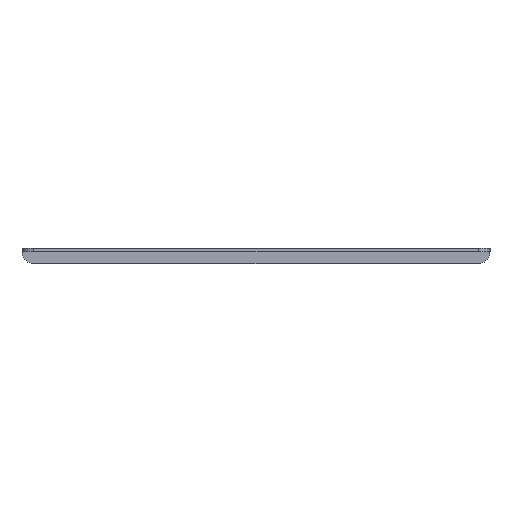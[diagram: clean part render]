
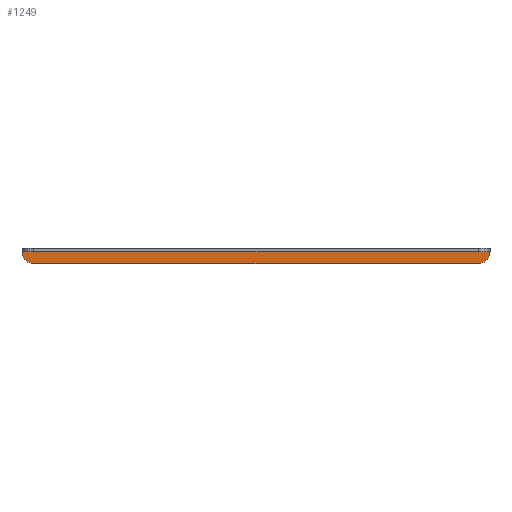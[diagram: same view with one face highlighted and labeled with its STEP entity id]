
A CAD part, left-side view. The second image highlights one B-rep face of the part: STEP entity #1249.
In plain terms, the highlighted planar face has unit normal (-1, 0, 0).
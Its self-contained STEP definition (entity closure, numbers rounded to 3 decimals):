
#247=AXIS2_PLACEMENT_3D('Circle Axis2P3D',#245,#246,$) ;
#1229=AXIS2_PLACEMENT_3D('Plane Axis2P3D',#1226,#1227,#1228) ;
#1240=AXIS2_PLACEMENT_3D('Circle Axis2P3D',#1238,#1239,$) ;
#207=CARTESIAN_POINT('Line Origine',(-1.5,0.,-6.5)) ;
#211=CARTESIAN_POINT('Vertex',(-1.5,-95.,-6.5)) ;
#213=CARTESIAN_POINT('Vertex',(-1.5,95.,-6.5)) ;
#242=CARTESIAN_POINT('Vertex',(-1.5,-100.,-1.5)) ;
#245=CARTESIAN_POINT('Axis2P3D Location',(-1.5,-95.,-1.5)) ;
#1226=CARTESIAN_POINT('Axis2P3D Location',(-1.5,0.,-6.5)) ;
#1231=CARTESIAN_POINT('Line Origine',(-1.5,0.,-1.5)) ;
#1235=CARTESIAN_POINT('Vertex',(-1.5,100.,-1.5)) ;
#1238=CARTESIAN_POINT('Axis2P3D Location',(-1.5,95.,-1.5)) ;
#208=DIRECTION('Vector Direction',(0.,-1.,0.)) ;
#246=DIRECTION('Axis2P3D Direction',(1.,0.,0.)) ;
#1227=DIRECTION('Axis2P3D Direction',(1.,0.,-0.)) ;
#1228=DIRECTION('Axis2P3D XDirection',(0.,0.,1.)) ;
#1232=DIRECTION('Vector Direction',(0.,-1.,0.)) ;
#1239=DIRECTION('Axis2P3D Direction',(1.,0.,-0.)) ;
#209=VECTOR('Line Direction',#208,1.) ;
#1233=VECTOR('Line Direction',#1232,1.) ;
#1244=ORIENTED_EDGE('',*,*,#249,.F.) ;
#1245=ORIENTED_EDGE('',*,*,#1237,.T.) ;
#1246=ORIENTED_EDGE('',*,*,#1242,.T.) ;
#1247=ORIENTED_EDGE('',*,*,#215,.F.) ;
#1249=ADVANCED_FACE('PartBody',(#1248),#1230,.F.) ;
#248=CIRCLE('generated circle',#247,5.) ;
#1241=CIRCLE('generated circle',#1240,5.) ;
#215=EDGE_CURVE('',#212,#214,#210,.F.) ;
#249=EDGE_CURVE('',#243,#212,#248,.T.) ;
#1237=EDGE_CURVE('',#243,#1236,#1234,.F.) ;
#1242=EDGE_CURVE('',#1236,#214,#1241,.F.) ;
#1243=EDGE_LOOP('',(#1244,#1245,#1246,#1247)) ;
#1248=FACE_OUTER_BOUND('',#1243,.T.) ;
#210=LINE('Line',#207,#209) ;
#1234=LINE('Line',#1231,#1233) ;
#1230=PLANE('',#1229) ;
#212=VERTEX_POINT('',#211) ;
#214=VERTEX_POINT('',#213) ;
#243=VERTEX_POINT('',#242) ;
#1236=VERTEX_POINT('',#1235) ;
